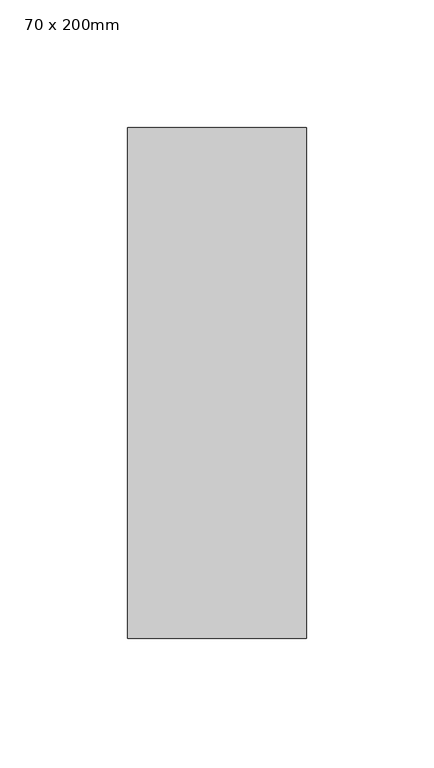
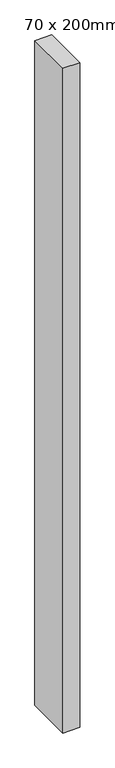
"""IFC4 building model written with IfcOpenShell, lengths in millimetres: member geometry, 矩形竖梃 : 70 x 200mm."""

from ifc_helpers import new_model, si_unit, frame, origin, place, context, project, spatial, polyline, outline, extrude, source, transform, mapped, element, save


def member_70_x_200mm_03d0c41a(model_context):
    return source(origin(), model_context, "Body", "SweptSolid", [
        extrude(outline(polyline([(35.0, 100.0), (35.0, -100.0), (-35.0, -100.0), (-35.0, 100.0), (35.0, 100.0)])), frame((0.0, 0.0, -2900.0), z_axis=(0.0, 0.0, 1.0), x_axis=(1.0, 0.0, 0.0)), (0.0, 0.0, 1.0), 2900.0),
    ])


if __name__ == "__main__":
    model = new_model("IFC4")
    model_context = context("Model", 3, world=origin())
    ifc_project = project(units=[si_unit("LENGTHUNIT", "METRE", prefix="MILLI")], contexts=[model_context])
    site = spatial("IfcSite", under=ifc_project)
    building = spatial("IfcBuilding", under=site)
    placement = place(None, origin())
    member_70_x_200mm_shape = member_70_x_200mm_03d0c41a(model_context)
    element("IfcMember", 1, ObjectType="矩形竖梃 : 70 x 200mm", at=placement, inside=building, context=model_context, shape_type="MappedRepresentation", body=[
        mapped(member_70_x_200mm_shape, transform((0.0, 0.0, 0.0), x_axis=(1.0, 0.0, 0.0), y_axis=(0.0, 1.0, 0.0), z_axis=(0.0, 0.0, 1.0))),
    ])
    save(model, "model.ifc")
